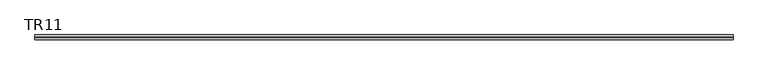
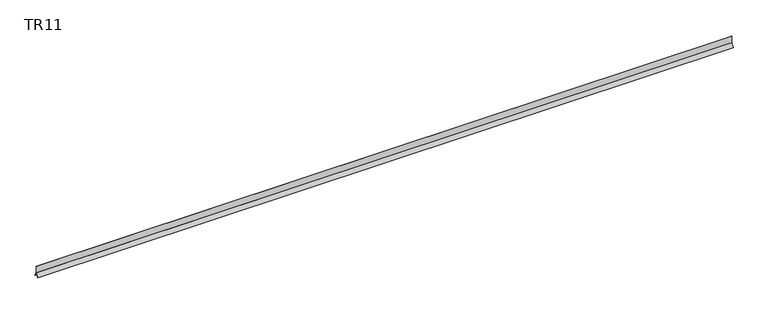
"""IFC4 building model written with IfcOpenShell, lengths in millimetres: proxy geometry, TR11 : Trims Apex Trims."""

from ifc_helpers import new_model, si_unit, frame, origin, place, context, project, spatial, polyline, outline, extrude, source, transform, mapped, element, save


def tr11_f217a9d7(model_context):
    return source(origin(), model_context, "Body", "SweptSolid", [
        extrude(outline(polyline([(0.5, 38.1464466), (0.5, 0.1464466), (13.0, -21.5041885), (12.1339746, -22.0041885), (0.0, -0.987528), (-12.1339746, -22.0041885), (-13.0, -21.5041885), (-0.5, 0.1464466), (-0.5, 38.1464466), (0.5, 38.1464466)])), frame((0.0, 0.0, 0.0), z_axis=(1.0, 0.0, 0.0), x_axis=(0.0, 1.0, 0.0)), (0.0, 0.0, 1.0), 3800.0),
    ])


if __name__ == "__main__":
    model = new_model("IFC4")
    model_context = context("Model", 3, world=origin())
    ifc_project = project(units=[si_unit("LENGTHUNIT", "METRE", prefix="MILLI")], contexts=[model_context])
    site = spatial("IfcSite", under=ifc_project)
    building = spatial("IfcBuilding", under=site)
    placement = place(None, origin())
    tr11_shape = tr11_f217a9d7(model_context)
    element("IfcBuildingElementProxy", 1, Name="TR11 : Trims Apex Trims", ObjectType="TR11 : Trims Apex Trims", at=placement, inside=building, context=model_context, shape_type="MappedRepresentation", body=[
        mapped(tr11_shape, transform((0.0, 0.0, 0.0), x_axis=(1.0, 0.0, 0.0), y_axis=(0.0, 1.0, 0.0), z_axis=(0.0, 0.0, 1.0))),
    ])
    save(model, "model.ifc")
